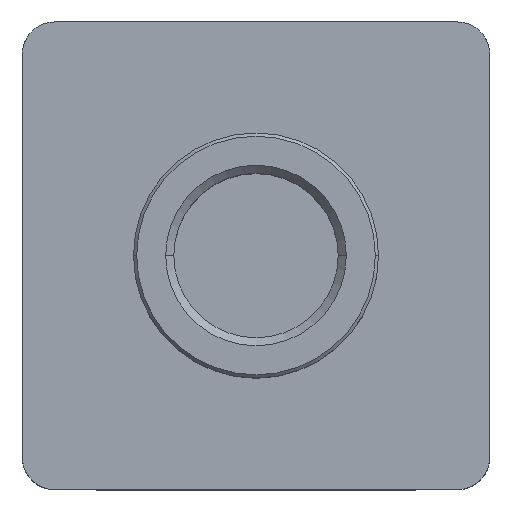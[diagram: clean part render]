
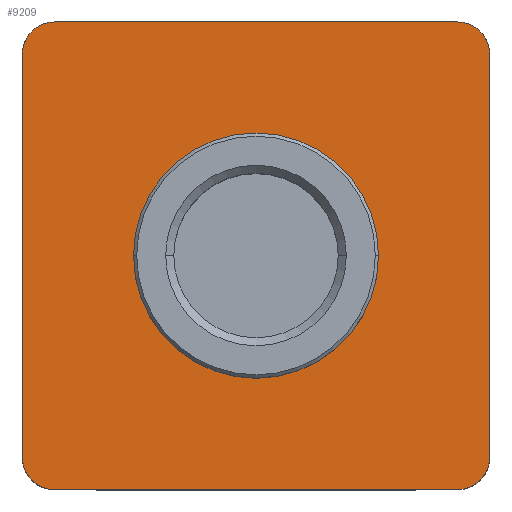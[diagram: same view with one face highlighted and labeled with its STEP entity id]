
A CAD part, top view. The second image highlights one B-rep face of the part: STEP entity #9209.
In plain terms, the highlighted planar face has unit normal (0, 0, 1).
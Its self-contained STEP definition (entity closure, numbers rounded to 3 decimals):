
#244 = DIRECTION ( 'NONE',  ( 0., 0., 1. ) ) ;
#298 = ORIENTED_EDGE ( 'NONE', *, *, #13845, .T. ) ;
#1240 = VERTEX_POINT ( 'NONE', #17010 ) ;
#1258 = EDGE_CURVE ( 'NONE', #27959, #22742, #2900, .T. ) ;
#1377 = VERTEX_POINT ( 'NONE', #24637 ) ;
#1739 = CIRCLE ( 'NONE', #39213, 2. ) ;
#1759 = AXIS2_PLACEMENT_3D ( 'NONE', #41294, #22073, #2680 ) ;
#1794 = AXIS2_PLACEMENT_3D ( 'NONE', #9810, #32370, #13080 ) ;
#1800 = DIRECTION ( 'NONE',  ( 1., 0., 0. ) ) ;
#2680 = DIRECTION ( 'NONE',  ( 1., 0., 0. ) ) ;
#2694 = FACE_OUTER_BOUND ( 'NONE', #34868, .T. ) ;
#2900 = LINE ( 'NONE', #27493, #17087 ) ;
#4516 = ORIENTED_EDGE ( 'NONE', *, *, #31563, .T. ) ;
#5341 = ORIENTED_EDGE ( 'NONE', *, *, #36304, .T. ) ;
#5656 = DIRECTION ( 'NONE',  ( 0., 1., 0. ) ) ;
#6482 = VERTEX_POINT ( 'NONE', #17107 ) ;
#7046 = CARTESIAN_POINT ( 'NONE',  ( -6.978, 25.401, 30.89 ) ) ;
#8970 = ORIENTED_EDGE ( 'NONE', *, *, #35045, .T. ) ;
#9209 = ADVANCED_FACE ( 'NONE', ( #2694, #11326 ), #39508, .T. ) ;
#9328 = EDGE_CURVE ( 'NONE', #1240, #1377, #39539, .T. ) ;
#9689 = ORIENTED_EDGE ( 'NONE', *, *, #29945, .T. ) ;
#9810 = CARTESIAN_POINT ( 'NONE',  ( 5.522, 10.901, 30.89 ) ) ;
#10526 = AXIS2_PLACEMENT_3D ( 'NONE', #33244, #13950, #36476 ) ;
#10903 = ORIENTED_EDGE ( 'NONE', *, *, #18044, .F. ) ;
#11326 = FACE_BOUND ( 'NONE', #13963, .T. ) ;
#11380 = DIRECTION ( 'NONE',  ( 0., 0., 1. ) ) ;
#11484 = DIRECTION ( 'NONE',  ( 0., -1., 0. ) ) ;
#11787 = ORIENTED_EDGE ( 'NONE', *, *, #1258, .T. ) ;
#11919 = DIRECTION ( 'NONE',  ( -1., 0., 0. ) ) ;
#12034 = ORIENTED_EDGE ( 'NONE', *, *, #9328, .T. ) ;
#12767 = CARTESIAN_POINT ( 'NONE',  ( -2.078, 10.901, 30.89 ) ) ;
#13044 = AXIS2_PLACEMENT_3D ( 'NONE', #30689, #11380, #33925 ) ;
#13080 = DIRECTION ( 'NONE',  ( 1., 0., 0. ) ) ;
#13845 = EDGE_CURVE ( 'NONE', #6482, #22904, #33157, .T. ) ;
#13944 = CIRCLE ( 'NONE', #10526, 2. ) ;
#13950 = DIRECTION ( 'NONE',  ( 0., 0., 1. ) ) ;
#13963 = EDGE_LOOP ( 'NONE', ( #10903, #17128 ) ) ;
#15003 = VERTEX_POINT ( 'NONE', #7046 ) ;
#15279 = LINE ( 'NONE', #28015, #31412 ) ;
#16028 = VECTOR ( 'NONE', #19744, 1000. ) ;
#17010 = CARTESIAN_POINT ( 'NONE',  ( 20.022, -1.599, 30.89 ) ) ;
#17087 = VECTOR ( 'NONE', #11484, 1000. ) ;
#17107 = CARTESIAN_POINT ( 'NONE',  ( -6.978, -3.599, 30.89 ) ) ;
#17128 = ORIENTED_EDGE ( 'NONE', *, *, #19028, .F. ) ;
#17937 = DIRECTION ( 'NONE',  ( 1., 0., 0. ) ) ;
#18044 = EDGE_CURVE ( 'NONE', #24592, #36078, #27837, .T. ) ;
#18195 = CARTESIAN_POINT ( 'NONE',  ( 18.022, 25.401, 30.89 ) ) ;
#18287 = CARTESIAN_POINT ( 'NONE',  ( -8.978, 23.401, 30.89 ) ) ;
#19028 = EDGE_CURVE ( 'NONE', #36078, #24592, #40001, .T. ) ;
#19680 = CARTESIAN_POINT ( 'NONE',  ( 18.022, -1.599, 30.89 ) ) ;
#19744 = DIRECTION ( 'NONE',  ( 1., 0., 0. ) ) ;
#20169 = ORIENTED_EDGE ( 'NONE', *, *, #23319, .T. ) ;
#21238 = DIRECTION ( 'NONE',  ( 0., 0., 1. ) ) ;
#22073 = DIRECTION ( 'NONE',  ( 0., 0., 1. ) ) ;
#22742 = VERTEX_POINT ( 'NONE', #23331 ) ;
#22904 = VERTEX_POINT ( 'NONE', #30760 ) ;
#22909 = DIRECTION ( 'NONE',  ( 1., 0., 0. ) ) ;
#23319 = EDGE_CURVE ( 'NONE', #1377, #37374, #13944, .T. ) ;
#23331 = CARTESIAN_POINT ( 'NONE',  ( -8.978, -1.599, 30.89 ) ) ;
#24503 = VECTOR ( 'NONE', #5656, 1000. ) ;
#24592 = VERTEX_POINT ( 'NONE', #12767 ) ;
#24637 = CARTESIAN_POINT ( 'NONE',  ( 20.022, 23.401, 30.89 ) ) ;
#24791 = AXIS2_PLACEMENT_3D ( 'NONE', #19680, #244, #22909 ) ;
#25325 = CARTESIAN_POINT ( 'NONE',  ( 20.022, 23.401, 30.89 ) ) ;
#26180 = DIRECTION ( 'NONE',  ( 0., 0., 1. ) ) ;
#27493 = CARTESIAN_POINT ( 'NONE',  ( -8.978, -1.599, 30.89 ) ) ;
#27837 = CIRCLE ( 'NONE', #1794, 7.6 ) ;
#27959 = VERTEX_POINT ( 'NONE', #18287 ) ;
#28015 = CARTESIAN_POINT ( 'NONE',  ( 18.022, 25.401, 30.89 ) ) ;
#28875 = CIRCLE ( 'NONE', #1759, 2. ) ;
#29098 = CARTESIAN_POINT ( 'NONE',  ( -6.978, 23.401, 30.89 ) ) ;
#29945 = EDGE_CURVE ( 'NONE', #22904, #1240, #37431, .T. ) ;
#30689 = CARTESIAN_POINT ( 'NONE',  ( 5.522, 10.901, 30.89 ) ) ;
#30760 = CARTESIAN_POINT ( 'NONE',  ( 18.022, -3.599, 30.89 ) ) ;
#31375 = AXIS2_PLACEMENT_3D ( 'NONE', #29098, #26180, #17937 ) ;
#31412 = VECTOR ( 'NONE', #11919, 1000. ) ;
#31563 = EDGE_CURVE ( 'NONE', #37374, #15003, #15279, .T. ) ;
#32370 = DIRECTION ( 'NONE',  ( 0., 0., 1. ) ) ;
#32654 = CARTESIAN_POINT ( 'NONE',  ( 18.022, -3.599, 30.89 ) ) ;
#33157 = LINE ( 'NONE', #32654, #16028 ) ;
#33244 = CARTESIAN_POINT ( 'NONE',  ( 18.022, 23.401, 30.89 ) ) ;
#33925 = DIRECTION ( 'NONE',  ( 1., 0., 0. ) ) ;
#34868 = EDGE_LOOP ( 'NONE', ( #5341, #11787, #8970, #298, #9689, #12034, #20169, #4516 ) ) ;
#35045 = EDGE_CURVE ( 'NONE', #22742, #6482, #1739, .T. ) ;
#36078 = VERTEX_POINT ( 'NONE', #36254 ) ;
#36254 = CARTESIAN_POINT ( 'NONE',  ( 13.122, 10.901, 30.89 ) ) ;
#36304 = EDGE_CURVE ( 'NONE', #15003, #27959, #28875, .T. ) ;
#36476 = DIRECTION ( 'NONE',  ( 1., 0., 0. ) ) ;
#37374 = VERTEX_POINT ( 'NONE', #18195 ) ;
#37431 = CIRCLE ( 'NONE', #24791, 2. ) ;
#39213 = AXIS2_PLACEMENT_3D ( 'NONE', #40468, #21238, #1800 ) ;
#39508 = PLANE ( 'NONE',  #31375 ) ;
#39539 = LINE ( 'NONE', #25325, #24503 ) ;
#40001 = CIRCLE ( 'NONE', #13044, 7.6 ) ;
#40468 = CARTESIAN_POINT ( 'NONE',  ( -6.978, -1.599, 30.89 ) ) ;
#41294 = CARTESIAN_POINT ( 'NONE',  ( -6.978, 23.401, 30.89 ) ) ;
